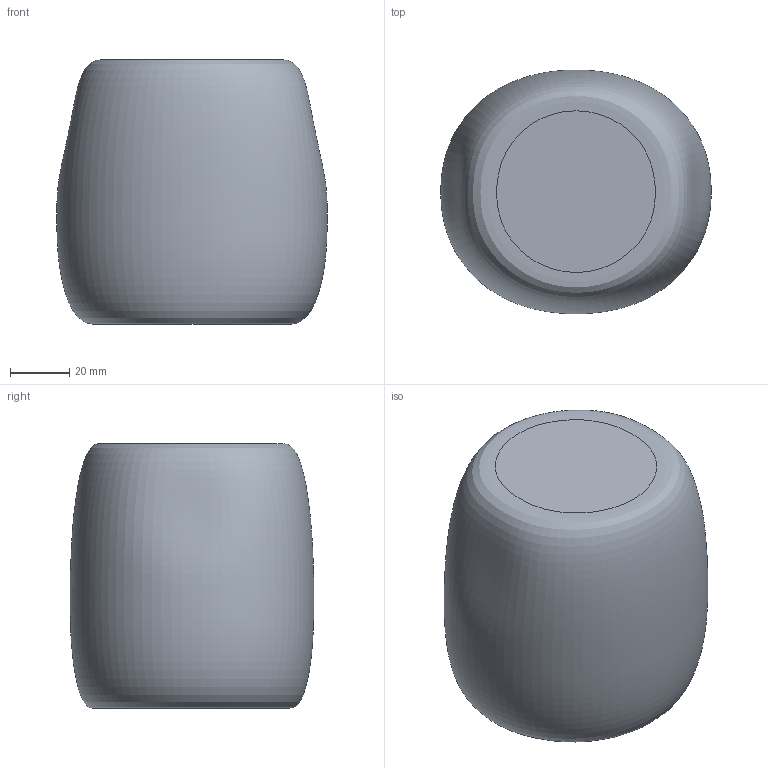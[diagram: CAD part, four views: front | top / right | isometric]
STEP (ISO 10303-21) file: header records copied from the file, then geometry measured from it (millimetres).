
FILE_DESCRIPTION(('Open CASCADE Model'),'2;1');
FILE_NAME('Open CASCADE Shape Model','2026-11-11T21:47:42',('Author'),( 'Open CASCADE'),'Open CASCADE STEP processor 8.0','build123d', 'Unknown');
FILE_SCHEMA(('AUTOMOTIVE_DESIGN { 1 0 10303 214 1 1 1 1 }'));
Length unit declared in the file: millimetre
Products named in the file (1): SOLID
Bounding box: 91 x 81.93 x 89 mm (x, y, z)
Volume: 483030.1 mm3; surface area: 31527.8 mm2
Topology: 1 solids, 1 shells, 3 faces, 3 edges, 2 vertices
Faces by surface type: plane 2, bspline 1
Entity records: 13529 total; most frequent: CARTESIAN_POINT 13453, DIRECTION 10, ORIENTED_EDGE 6, PCURVE 6, DEFINITIONAL_REPRESENTATION 6, B_SPLINE_CURVE_WITH_KNOTS 4, LINE 4, VECTOR 4
